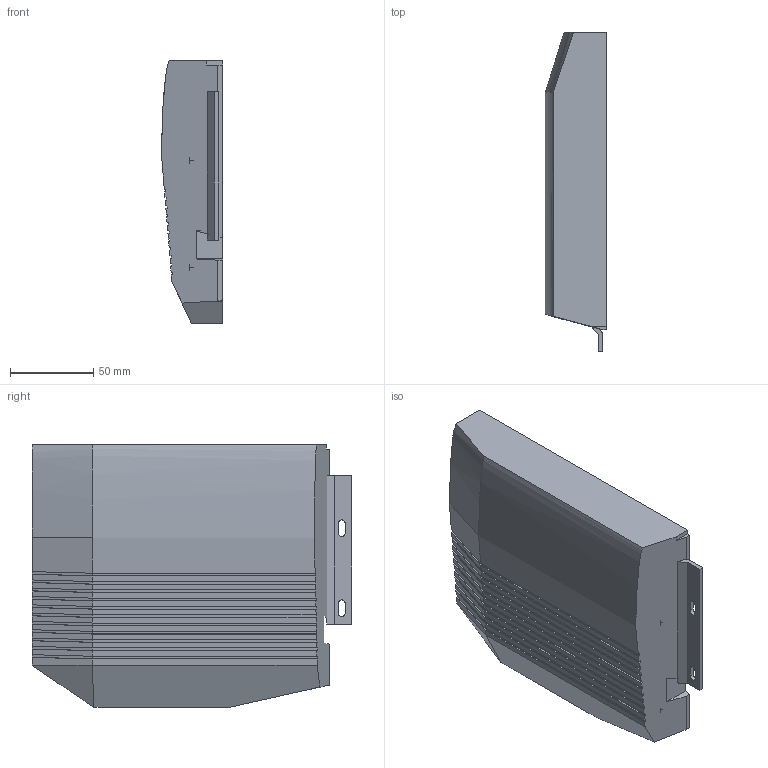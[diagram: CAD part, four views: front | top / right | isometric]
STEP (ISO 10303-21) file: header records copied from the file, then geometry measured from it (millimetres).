
FILE_DESCRIPTION (( 'STEP AP203' ), '1' );
FILE_NAME ('Kinvaro_T-75_rechts_D2762508325~0.step', '2012-05-04T06:55:06', ( 'admin' ), ( 'Hewlett-Packard Company' ), 'SwSTEP 2.0', 'SolidWorks 2011', '' );
FILE_SCHEMA (( 'CONFIG_CONTROL_DESIGN' ));
Length unit declared in the file: millimetre
Products named in the file (1): Kinvaro_T-75_rechts_D2762508325~0
Bounding box: 36.77 x 191.72 x 157.62 mm (x, y, z)
Volume: 854559.4 mm3; surface area: 78351.4 mm2
Topology: 1 solids, 1 shells, 118 faces, 333 edges, 221 vertices
Faces by surface type: plane 100, cylinder 16, bspline 2
Entity records: 4101 total; most frequent: CARTESIAN_POINT 958, ORIENTED_EDGE 666, DIRECTION 586, EDGE_CURVE 333, VECTOR 294, LINE 294, VERTEX_POINT 221, AXIS2_PLACEMENT_3D 146
